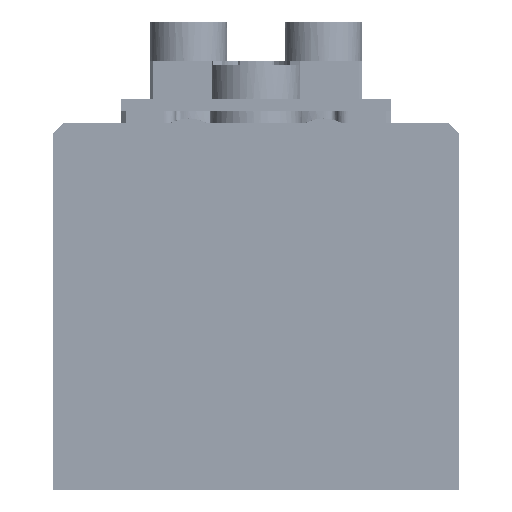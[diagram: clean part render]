
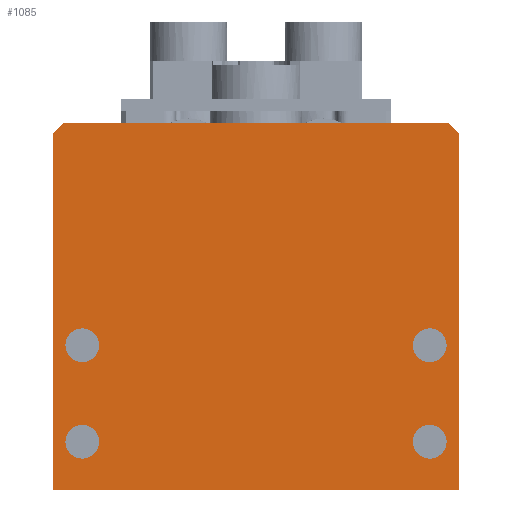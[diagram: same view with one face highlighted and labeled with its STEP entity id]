
A CAD part, left-side view. The second image highlights one B-rep face of the part: STEP entity #1085.
In plain terms, the highlighted planar face has unit normal (-1, 0, 0).
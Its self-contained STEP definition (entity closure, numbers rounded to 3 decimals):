
#631=AXIS2_PLACEMENT_3D('Circle Axis2P3D',#629,#630,$) ;
#666=AXIS2_PLACEMENT_3D('Circle Axis2P3D',#664,#665,$) ;
#728=AXIS2_PLACEMENT_3D('Circle Axis2P3D',#726,#727,$) ;
#763=AXIS2_PLACEMENT_3D('Circle Axis2P3D',#761,#762,$) ;
#785=AXIS2_PLACEMENT_3D('Circle Axis2P3D',#783,#784,$) ;
#820=AXIS2_PLACEMENT_3D('Circle Axis2P3D',#818,#819,$) ;
#842=AXIS2_PLACEMENT_3D('Circle Axis2P3D',#840,#841,$) ;
#877=AXIS2_PLACEMENT_3D('Circle Axis2P3D',#875,#876,$) ;
#1054=AXIS2_PLACEMENT_3D('Plane Axis2P3D',#1051,#1052,#1053) ;
#629=CARTESIAN_POINT('Axis2P3D Location',(0.,3.,15.)) ;
#633=CARTESIAN_POINT('Vertex',(0.,1.256,15.143)) ;
#635=CARTESIAN_POINT('Vertex',(0.,4.744,14.857)) ;
#664=CARTESIAN_POINT('Axis2P3D Location',(0.,3.,15.)) ;
#690=CARTESIAN_POINT('Vertex',(0.,0.,0.)) ;
#695=CARTESIAN_POINT('Line Origine',(0.,21.,0.)) ;
#699=CARTESIAN_POINT('Vertex',(0.,42.,0.)) ;
#726=CARTESIAN_POINT('Axis2P3D Location',(0.,39.,5.)) ;
#730=CARTESIAN_POINT('Vertex',(0.,37.25,5.)) ;
#732=CARTESIAN_POINT('Vertex',(0.,40.75,5.)) ;
#761=CARTESIAN_POINT('Axis2P3D Location',(0.,39.,5.)) ;
#783=CARTESIAN_POINT('Axis2P3D Location',(0.,39.,15.)) ;
#787=CARTESIAN_POINT('Vertex',(0.,37.25,15.)) ;
#789=CARTESIAN_POINT('Vertex',(0.,40.75,15.)) ;
#818=CARTESIAN_POINT('Axis2P3D Location',(0.,39.,15.)) ;
#840=CARTESIAN_POINT('Axis2P3D Location',(0.,3.,5.)) ;
#844=CARTESIAN_POINT('Vertex',(0.,1.256,5.143)) ;
#846=CARTESIAN_POINT('Vertex',(0.,4.744,4.857)) ;
#875=CARTESIAN_POINT('Axis2P3D Location',(0.,3.,5.)) ;
#904=CARTESIAN_POINT('Line Origine',(0.,42.,18.5)) ;
#908=CARTESIAN_POINT('Vertex',(0.,42.,37.)) ;
#935=CARTESIAN_POINT('Line Origine',(0.,41.5,37.5)) ;
#939=CARTESIAN_POINT('Vertex',(0.,41.,38.)) ;
#959=CARTESIAN_POINT('Line Origine',(0.,0.,18.5)) ;
#963=CARTESIAN_POINT('Vertex',(0.,0.,37.)) ;
#1032=CARTESIAN_POINT('Line Origine',(0.,21.,38.)) ;
#1036=CARTESIAN_POINT('Vertex',(0.,1.,38.)) ;
#1051=CARTESIAN_POINT('Axis2P3D Location',(0.,0.,0.)) ;
#1056=CARTESIAN_POINT('Line Origine',(0.,0.5,37.5)) ;
#630=DIRECTION('Axis2P3D Direction',(1.,0.,0.)) ;
#665=DIRECTION('Axis2P3D Direction',(1.,0.,0.)) ;
#696=DIRECTION('Vector Direction',(0.,1.,0.)) ;
#727=DIRECTION('Axis2P3D Direction',(1.,0.,0.)) ;
#762=DIRECTION('Axis2P3D Direction',(1.,0.,0.)) ;
#784=DIRECTION('Axis2P3D Direction',(1.,0.,0.)) ;
#819=DIRECTION('Axis2P3D Direction',(1.,0.,0.)) ;
#841=DIRECTION('Axis2P3D Direction',(1.,0.,0.)) ;
#876=DIRECTION('Axis2P3D Direction',(1.,0.,0.)) ;
#905=DIRECTION('Vector Direction',(0.,0.,1.)) ;
#936=DIRECTION('Vector Direction',(0.,0.707,-0.707)) ;
#960=DIRECTION('Vector Direction',(0.,0.,-1.)) ;
#1033=DIRECTION('Vector Direction',(0.,-1.,0.)) ;
#1052=DIRECTION('Axis2P3D Direction',(1.,0.,0.)) ;
#1053=DIRECTION('Axis2P3D XDirection',(0.,1.,0.)) ;
#1057=DIRECTION('Vector Direction',(0.,0.707,0.707)) ;
#697=VECTOR('Line Direction',#696,1.) ;
#906=VECTOR('Line Direction',#905,1.) ;
#937=VECTOR('Line Direction',#936,1.) ;
#961=VECTOR('Line Direction',#960,1.) ;
#1034=VECTOR('Line Direction',#1033,1.) ;
#1058=VECTOR('Line Direction',#1057,1.) ;
#1062=ORIENTED_EDGE('',*,*,#1060,.F.) ;
#1063=ORIENTED_EDGE('',*,*,#1038,.F.) ;
#1064=ORIENTED_EDGE('',*,*,#941,.F.) ;
#1065=ORIENTED_EDGE('',*,*,#910,.F.) ;
#1066=ORIENTED_EDGE('',*,*,#701,.F.) ;
#1067=ORIENTED_EDGE('',*,*,#965,.F.) ;
#1070=ORIENTED_EDGE('',*,*,#637,.T.) ;
#1071=ORIENTED_EDGE('',*,*,#668,.T.) ;
#1074=ORIENTED_EDGE('',*,*,#848,.T.) ;
#1075=ORIENTED_EDGE('',*,*,#879,.T.) ;
#1078=ORIENTED_EDGE('',*,*,#791,.T.) ;
#1079=ORIENTED_EDGE('',*,*,#822,.T.) ;
#1082=ORIENTED_EDGE('',*,*,#734,.T.) ;
#1083=ORIENTED_EDGE('',*,*,#765,.T.) ;
#1072=FACE_BOUND('',#1069,.T.) ;
#1076=FACE_BOUND('',#1073,.T.) ;
#1080=FACE_BOUND('',#1077,.T.) ;
#1084=FACE_BOUND('',#1081,.T.) ;
#1085=ADVANCED_FACE('\X2\96F64EF651E04F554F53\X0\',(#1068,#1072,#1076,#1080,#1084),#1055,.F.) ;
#632=CIRCLE('generated circle',#631,1.75) ;
#667=CIRCLE('generated circle',#666,1.75) ;
#729=CIRCLE('generated circle',#728,1.75) ;
#764=CIRCLE('generated circle',#763,1.75) ;
#786=CIRCLE('generated circle',#785,1.75) ;
#821=CIRCLE('generated circle',#820,1.75) ;
#843=CIRCLE('generated circle',#842,1.75) ;
#878=CIRCLE('generated circle',#877,1.75) ;
#637=EDGE_CURVE('',#634,#636,#632,.T.) ;
#668=EDGE_CURVE('',#636,#634,#667,.T.) ;
#701=EDGE_CURVE('',#691,#700,#698,.T.) ;
#734=EDGE_CURVE('',#731,#733,#729,.T.) ;
#765=EDGE_CURVE('',#733,#731,#764,.T.) ;
#791=EDGE_CURVE('',#788,#790,#786,.T.) ;
#822=EDGE_CURVE('',#790,#788,#821,.T.) ;
#848=EDGE_CURVE('',#845,#847,#843,.T.) ;
#879=EDGE_CURVE('',#847,#845,#878,.T.) ;
#910=EDGE_CURVE('',#700,#909,#907,.T.) ;
#941=EDGE_CURVE('',#909,#940,#938,.F.) ;
#965=EDGE_CURVE('',#964,#691,#962,.T.) ;
#1038=EDGE_CURVE('',#940,#1037,#1035,.T.) ;
#1060=EDGE_CURVE('',#1037,#964,#1059,.F.) ;
#1061=EDGE_LOOP('',(#1062,#1063,#1064,#1065,#1066,#1067)) ;
#1069=EDGE_LOOP('',(#1070,#1071)) ;
#1073=EDGE_LOOP('',(#1074,#1075)) ;
#1077=EDGE_LOOP('',(#1078,#1079)) ;
#1081=EDGE_LOOP('',(#1082,#1083)) ;
#1068=FACE_OUTER_BOUND('',#1061,.T.) ;
#698=LINE('Line',#695,#697) ;
#907=LINE('Line',#904,#906) ;
#938=LINE('Line',#935,#937) ;
#962=LINE('Line',#959,#961) ;
#1035=LINE('Line',#1032,#1034) ;
#1059=LINE('Line',#1056,#1058) ;
#1055=PLANE('',#1054) ;
#634=VERTEX_POINT('',#633) ;
#636=VERTEX_POINT('',#635) ;
#691=VERTEX_POINT('',#690) ;
#700=VERTEX_POINT('',#699) ;
#731=VERTEX_POINT('',#730) ;
#733=VERTEX_POINT('',#732) ;
#788=VERTEX_POINT('',#787) ;
#790=VERTEX_POINT('',#789) ;
#845=VERTEX_POINT('',#844) ;
#847=VERTEX_POINT('',#846) ;
#909=VERTEX_POINT('',#908) ;
#940=VERTEX_POINT('',#939) ;
#964=VERTEX_POINT('',#963) ;
#1037=VERTEX_POINT('',#1036) ;
